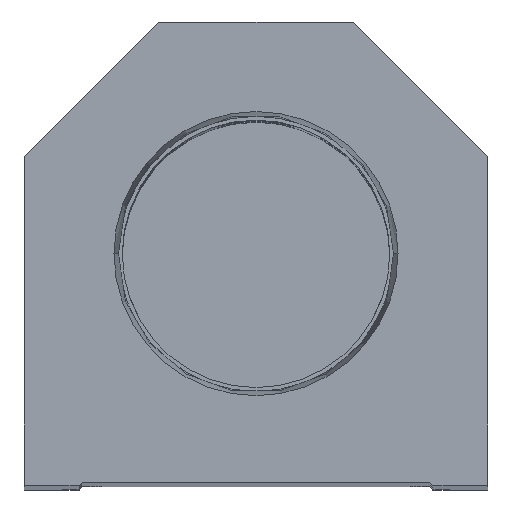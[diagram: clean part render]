
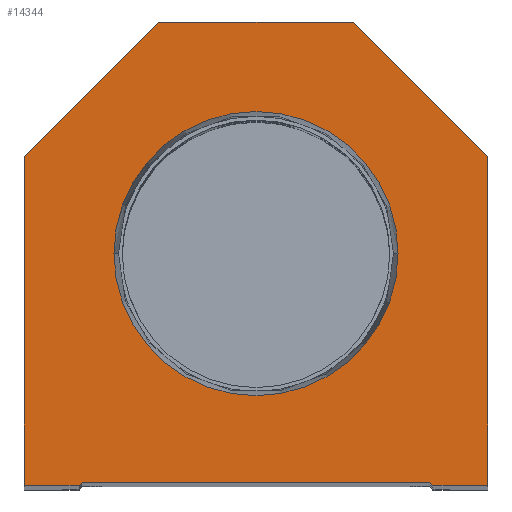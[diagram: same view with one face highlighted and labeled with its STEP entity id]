
A CAD part, top view. The second image highlights one B-rep face of the part: STEP entity #14344.
In plain terms, the highlighted planar face has unit normal (0, 0, 1).
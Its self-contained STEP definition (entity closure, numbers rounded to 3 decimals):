
#64 = CARTESIAN_POINT ( 'NONE',  ( -38.1, 54.1, 0. ) ) ;
#726 = EDGE_CURVE ( 'NONE', #11631, #5835, #12377, .T. ) ;
#1174 = VECTOR ( 'NONE', #9996, 1000. ) ;
#1188 = ORIENTED_EDGE ( 'NONE', *, *, #16660, .T. ) ;
#1474 = EDGE_CURVE ( 'NONE', #2040, #9668, #23057, .T. ) ;
#1972 = DIRECTION ( 'NONE',  ( 0.707, 0.707, 0. ) ) ;
#2040 = VERTEX_POINT ( 'NONE', #6363 ) ;
#2072 = VERTEX_POINT ( 'NONE', #25033 ) ;
#2861 = CIRCLE ( 'NONE', #12004, 23.374 ) ;
#3177 = EDGE_CURVE ( 'NONE', #26258, #24205, #7660, .T. ) ;
#3540 = CARTESIAN_POINT ( 'NONE',  ( 23.374, 38.1, 0. ) ) ;
#4708 = CARTESIAN_POINT ( 'NONE',  ( -28.6, 0., 0. ) ) ;
#4945 = FACE_BOUND ( 'NONE', #23002, .T. ) ;
#5182 = CARTESIAN_POINT ( 'NONE',  ( 28.6, 0.5, 0. ) ) ;
#5466 = EDGE_CURVE ( 'NONE', #24205, #2040, #14387, .T. ) ;
#5729 = DIRECTION ( 'NONE',  ( 0., 0., 1. ) ) ;
#5835 = VERTEX_POINT ( 'NONE', #7274 ) ;
#5977 = ORIENTED_EDGE ( 'NONE', *, *, #19665, .T. ) ;
#6114 = LINE ( 'NONE', #25175, #7485 ) ;
#6363 = CARTESIAN_POINT ( 'NONE',  ( -38.1, 54.1, 0. ) ) ;
#6863 = DIRECTION ( 'NONE',  ( 0., 0., 1. ) ) ;
#6972 = LINE ( 'NONE', #23871, #18346 ) ;
#7230 = DIRECTION ( 'NONE',  ( 0.707, -0.707, 0. ) ) ;
#7274 = CARTESIAN_POINT ( 'NONE',  ( 38.1, 54.1, 0. ) ) ;
#7485 = VECTOR ( 'NONE', #18538, 1000. ) ;
#7506 = CARTESIAN_POINT ( 'NONE',  ( 29.1, 0., 0. ) ) ;
#7660 = LINE ( 'NONE', #24299, #1174 ) ;
#7686 = CARTESIAN_POINT ( 'NONE',  ( -38.1, 0., 0. ) ) ;
#7782 = EDGE_CURVE ( 'NONE', #19848, #9705, #6972, .T. ) ;
#7912 = LINE ( 'NONE', #26438, #25419 ) ;
#8274 = VECTOR ( 'NONE', #19048, 1000. ) ;
#8460 = DIRECTION ( 'NONE',  ( 0., -1., 0. ) ) ;
#9102 = VECTOR ( 'NONE', #8460, 1000. ) ;
#9668 = VERTEX_POINT ( 'NONE', #25920 ) ;
#9705 = VERTEX_POINT ( 'NONE', #7506 ) ;
#9996 = DIRECTION ( 'NONE',  ( -1., 0., 0. ) ) ;
#11631 = VERTEX_POINT ( 'NONE', #21078 ) ;
#11961 = VERTEX_POINT ( 'NONE', #21881 ) ;
#12004 = AXIS2_PLACEMENT_3D ( 'NONE', #26687, #5729, #21734 ) ;
#12377 = LINE ( 'NONE', #14697, #14631 ) ;
#12602 = AXIS2_PLACEMENT_3D ( 'NONE', #19551, #6863, #25926 ) ;
#12866 = CIRCLE ( 'NONE', #15080, 23.374 ) ;
#12996 = CARTESIAN_POINT ( 'NONE',  ( 0., 38.1, 0. ) ) ;
#13027 = CARTESIAN_POINT ( 'NONE',  ( -29.1, 0., 0. ) ) ;
#13131 = PLANE ( 'NONE',  #12602 ) ;
#13922 = VERTEX_POINT ( 'NONE', #13027 ) ;
#13979 = EDGE_CURVE ( 'NONE', #9668, #13922, #21092, .T. ) ;
#14344 = ADVANCED_FACE ( 'NONE', ( #4945, #17247 ), #13131, .T. ) ;
#14387 = LINE ( 'NONE', #64, #25155 ) ;
#14631 = VECTOR ( 'NONE', #26784, 1000. ) ;
#14697 = CARTESIAN_POINT ( 'NONE',  ( 38.1, 0., 0. ) ) ;
#15080 = AXIS2_PLACEMENT_3D ( 'NONE', #12996, #16468, #21324 ) ;
#15606 = CARTESIAN_POINT ( 'NONE',  ( 28.6, 0., 0. ) ) ;
#16009 = DIRECTION ( 'NONE',  ( -0.707, 0.707, 0. ) ) ;
#16468 = DIRECTION ( 'NONE',  ( 0., 0., 1. ) ) ;
#16660 = EDGE_CURVE ( 'NONE', #11961, #19848, #6114, .T. ) ;
#16742 = VECTOR ( 'NONE', #25514, 1000. ) ;
#17247 = FACE_OUTER_BOUND ( 'NONE', #18859, .T. ) ;
#17480 = EDGE_CURVE ( 'NONE', #13922, #11961, #20648, .T. ) ;
#17691 = ORIENTED_EDGE ( 'NONE', *, *, #17480, .T. ) ;
#18212 = DIRECTION ( 'NONE',  ( -0.707, -0.707, 0. ) ) ;
#18346 = VECTOR ( 'NONE', #7230, 1000. ) ;
#18538 = DIRECTION ( 'NONE',  ( 1., 0., 0. ) ) ;
#18804 = ORIENTED_EDGE ( 'NONE', *, *, #3177, .T. ) ;
#18859 = EDGE_LOOP ( 'NONE', ( #24917, #17691, #1188, #21676, #18928, #22507, #5977, #18804, #21156, #21478 ) ) ;
#18928 = ORIENTED_EDGE ( 'NONE', *, *, #19525, .T. ) ;
#19048 = DIRECTION ( 'NONE',  ( 1., 0., 0. ) ) ;
#19525 = EDGE_CURVE ( 'NONE', #9705, #11631, #21863, .T. ) ;
#19551 = CARTESIAN_POINT ( 'NONE',  ( 0., 0., 0. ) ) ;
#19665 = EDGE_CURVE ( 'NONE', #5835, #26258, #7912, .T. ) ;
#19848 = VERTEX_POINT ( 'NONE', #5182 ) ;
#20610 = EDGE_CURVE ( 'NONE', #2072, #26399, #2861, .T. ) ;
#20648 = LINE ( 'NONE', #22819, #21062 ) ;
#20759 = CARTESIAN_POINT ( 'NONE',  ( -16., 76.2, 0. ) ) ;
#21062 = VECTOR ( 'NONE', #1972, 1000. ) ;
#21078 = CARTESIAN_POINT ( 'NONE',  ( 38.1, 0., 0. ) ) ;
#21092 = LINE ( 'NONE', #4708, #8274 ) ;
#21156 = ORIENTED_EDGE ( 'NONE', *, *, #5466, .T. ) ;
#21324 = DIRECTION ( 'NONE',  ( 1., 0., 0. ) ) ;
#21478 = ORIENTED_EDGE ( 'NONE', *, *, #1474, .T. ) ;
#21676 = ORIENTED_EDGE ( 'NONE', *, *, #7782, .T. ) ;
#21734 = DIRECTION ( 'NONE',  ( 1., 0., 0. ) ) ;
#21855 = ORIENTED_EDGE ( 'NONE', *, *, #20610, .F. ) ;
#21863 = LINE ( 'NONE', #15606, #16742 ) ;
#21881 = CARTESIAN_POINT ( 'NONE',  ( -28.6, 0.5, 0. ) ) ;
#22507 = ORIENTED_EDGE ( 'NONE', *, *, #726, .T. ) ;
#22819 = CARTESIAN_POINT ( 'NONE',  ( -14.55, 14.55, 0. ) ) ;
#23002 = EDGE_LOOP ( 'NONE', ( #25538, #21855 ) ) ;
#23057 = LINE ( 'NONE', #7686, #9102 ) ;
#23181 = CARTESIAN_POINT ( 'NONE',  ( 16., 76.2, 0. ) ) ;
#23871 = CARTESIAN_POINT ( 'NONE',  ( 14.55, 14.55, 0. ) ) ;
#24205 = VERTEX_POINT ( 'NONE', #20759 ) ;
#24299 = CARTESIAN_POINT ( 'NONE',  ( 16., 76.2, 0. ) ) ;
#24917 = ORIENTED_EDGE ( 'NONE', *, *, #13979, .T. ) ;
#25033 = CARTESIAN_POINT ( 'NONE',  ( -23.374, 38.1, 0. ) ) ;
#25155 = VECTOR ( 'NONE', #18212, 1000. ) ;
#25175 = CARTESIAN_POINT ( 'NONE',  ( -28.6, 0.5, 0. ) ) ;
#25419 = VECTOR ( 'NONE', #16009, 1000. ) ;
#25514 = DIRECTION ( 'NONE',  ( 1., 0., 0. ) ) ;
#25538 = ORIENTED_EDGE ( 'NONE', *, *, #26527, .F. ) ;
#25920 = CARTESIAN_POINT ( 'NONE',  ( -38.1, 0., 0. ) ) ;
#25926 = DIRECTION ( 'NONE',  ( 1., 0., 0. ) ) ;
#26258 = VERTEX_POINT ( 'NONE', #23181 ) ;
#26399 = VERTEX_POINT ( 'NONE', #3540 ) ;
#26438 = CARTESIAN_POINT ( 'NONE',  ( 38.1, 54.1, 0. ) ) ;
#26527 = EDGE_CURVE ( 'NONE', #26399, #2072, #12866, .T. ) ;
#26687 = CARTESIAN_POINT ( 'NONE',  ( 0., 38.1, 0. ) ) ;
#26784 = DIRECTION ( 'NONE',  ( 0., 1., 0. ) ) ;
